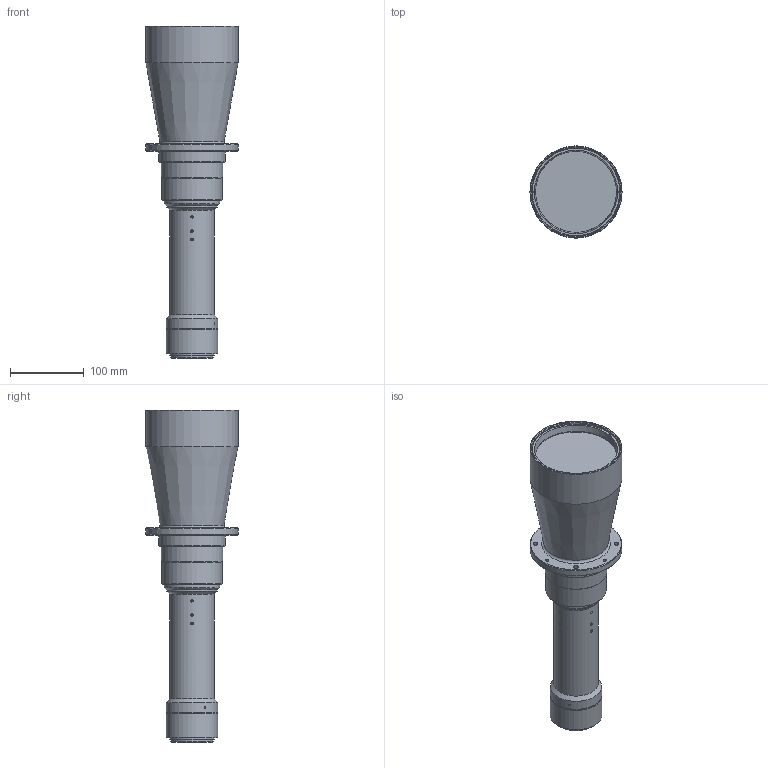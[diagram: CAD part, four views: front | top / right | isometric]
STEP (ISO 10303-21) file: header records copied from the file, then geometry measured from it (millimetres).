
FILE_DESCRIPTION (( 'STEP AP203' ), '1' );
FILE_NAME ('3d_mtl-9043M58-048_a002.STEP', '2017-06-16T08:04:12', ( '' ), ( '' ), 'SwSTEP 2.0', 'SolidWorks 2014', '' );
FILE_SCHEMA (( 'CONFIG_CONTROL_DESIGN' ));
Length unit declared in the file: millimetre
Products named in the file (1): 3d_mtl-9043M58-048_a002
Bounding box: 125 x 125 x 450.95 mm (x, y, z)
Volume: 2496889.6 mm3; surface area: 169180.9 mm2
Topology: 1 solids, 9 shells, 534 faces, 1221 edges, 738 vertices
Faces by surface type: plane 272, cone 179, cylinder 57, torus 18, sphere 8
Full cylindrical faces by diameter (mm): 1.6 x4, 2.5 x3, 3.2 x4, 3.5 x8, 4.2 x4, 6.6 x4, 51 x2, 52 x2, 55 x1, 56.4 x1, 57 x1, 57.2 x1, 57.5 x1, 58 x2, 60 x1, 61 x1, 68 x1, 69.5 x1, 70 x2, 75 x1, 82 x1, 84 x1, 85 x1, 90 x1, 110 x1, 119.187 x1, 125 x2
Entity records: 14857 total; most frequent: CARTESIAN_POINT 3615, DIRECTION 2418, ORIENTED_EDGE 2076, EDGE_CURVE 1038, AXIS2_PLACEMENT_3D 1031, EDGE_LOOP 732, VERTEX_POINT 690, FACE_OUTER_BOUND 612
